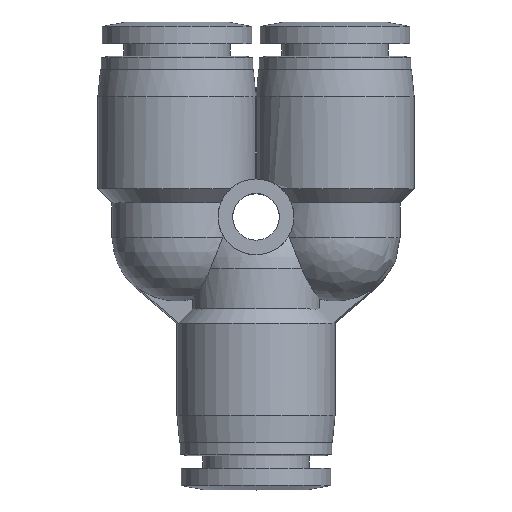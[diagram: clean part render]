
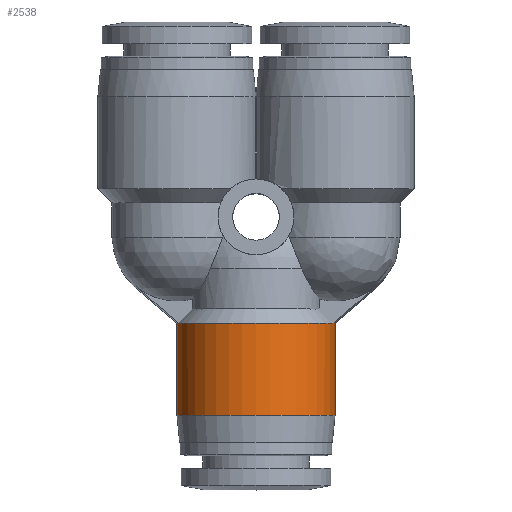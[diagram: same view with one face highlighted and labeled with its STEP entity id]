
A CAD part, top view. The second image highlights one B-rep face of the part: STEP entity #2538.
In plain terms, the highlighted cylindrical face has radius 7.3 mm (diameter 14.6 mm), a partial arc.
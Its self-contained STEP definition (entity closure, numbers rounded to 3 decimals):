
#26 = DIRECTION ( 'NONE',  ( 0., 1., 0. ) ) ;
#58 = CARTESIAN_POINT ( 'NONE',  ( 7.192, 8.5, 1.25 ) ) ;
#96 = CARTESIAN_POINT ( 'NONE',  ( -7.3, 0., 0. ) ) ;
#156 = CARTESIAN_POINT ( 'NONE',  ( 7.3, 4.25, 0. ) ) ;
#285 = CARTESIAN_POINT ( 'NONE',  ( 7.3, 8.5, 0. ) ) ;
#289 = CARTESIAN_POINT ( 'NONE',  ( 7.3, 8.5, 0. ) ) ;
#496 = VERTEX_POINT ( 'NONE', #4074 ) ;
#567 = CARTESIAN_POINT ( 'NONE',  ( 7.264, 8.5, 0.837 ) ) ;
#667 = VERTEX_POINT ( 'NONE', #4083 ) ;
#681 = VECTOR ( 'NONE', #1069, 1000. ) ;
#885 = EDGE_CURVE ( 'NONE', #1977, #1181, #2907, .T. ) ;
#916 = CARTESIAN_POINT ( 'NONE',  ( -7.3, 8.5, 0. ) ) ;
#977 = VECTOR ( 'NONE', #3688, 1000. ) ;
#1016 = EDGE_CURVE ( 'NONE', #1977, #667, #2318, .T. ) ;
#1021 = B_SPLINE_CURVE_WITH_KNOTS ( 'NONE', 3,
 ( #2537, #567, #1895, #285 ),
 .UNSPECIFIED., .F., .F.,
 ( 4, 4 ),
 ( 0., 0.5 ),
 .UNSPECIFIED. ) ;
#1069 = DIRECTION ( 'NONE',  ( 0., 1., 0. ) ) ;
#1100 = AXIS2_PLACEMENT_3D ( 'NONE', #3891, #1249, #2244 ) ;
#1130 = ORIENTED_EDGE ( 'NONE', *, *, #1228, .F. ) ;
#1133 = ORIENTED_EDGE ( 'NONE', *, *, #1348, .F. ) ;
#1181 = VERTEX_POINT ( 'NONE', #3584 ) ;
#1228 = EDGE_CURVE ( 'NONE', #1653, #2511, #1021, .T. ) ;
#1249 = DIRECTION ( 'NONE',  ( 0., 1., 0. ) ) ;
#1348 = EDGE_CURVE ( 'NONE', #496, #1653, #3886, .T. ) ;
#1540 = DIRECTION ( 'NONE',  ( -1., 0., 0. ) ) ;
#1653 = VERTEX_POINT ( 'NONE', #58 ) ;
#1662 = EDGE_CURVE ( 'NONE', #1181, #2511, #2408, .T. ) ;
#1895 = CARTESIAN_POINT ( 'NONE',  ( 7.3, 8.5, 0.419 ) ) ;
#1977 = VERTEX_POINT ( 'NONE', #96 ) ;
#2103 = ORIENTED_EDGE ( 'NONE', *, *, #1662, .T. ) ;
#2170 = ORIENTED_EDGE ( 'NONE', *, *, #1016, .F. ) ;
#2179 = EDGE_CURVE ( 'NONE', #667, #496, #3878, .T. ) ;
#2240 = CARTESIAN_POINT ( 'NONE',  ( -7.3, 8.5, 0.419 ) ) ;
#2244 = DIRECTION ( 'NONE',  ( -1., 0., 0. ) ) ;
#2288 = AXIS2_PLACEMENT_3D ( 'NONE', #3488, #3834, #1540 ) ;
#2318 = LINE ( 'NONE', #2363, #977 ) ;
#2363 = CARTESIAN_POINT ( 'NONE',  ( -7.3, 4.25, 0. ) ) ;
#2408 = LINE ( 'NONE', #156, #681 ) ;
#2497 = ORIENTED_EDGE ( 'NONE', *, *, #2179, .F. ) ;
#2511 = VERTEX_POINT ( 'NONE', #289 ) ;
#2537 = CARTESIAN_POINT ( 'NONE',  ( 7.192, 8.5, 1.25 ) ) ;
#2538 = ADVANCED_FACE ( 'NONE', ( #2599 ), #3274, .T. ) ;
#2599 = FACE_OUTER_BOUND ( 'NONE', #4113, .T. ) ;
#2692 = DIRECTION ( 'NONE',  ( -1., 0., 0. ) ) ;
#2907 = CIRCLE ( 'NONE', #2288, 7.3 ) ;
#2978 = CARTESIAN_POINT ( 'NONE',  ( 0., 8.5, 0. ) ) ;
#3202 = CARTESIAN_POINT ( 'NONE',  ( -7.264, 8.5, 0.837 ) ) ;
#3209 = ORIENTED_EDGE ( 'NONE', *, *, #885, .T. ) ;
#3274 = CYLINDRICAL_SURFACE ( 'NONE', #1100, 7.3 ) ;
#3474 = AXIS2_PLACEMENT_3D ( 'NONE', #2978, #26, #2692 ) ;
#3488 = CARTESIAN_POINT ( 'NONE',  ( 0., 0., 0. ) ) ;
#3508 = CARTESIAN_POINT ( 'NONE',  ( -7.192, 8.5, 1.25 ) ) ;
#3584 = CARTESIAN_POINT ( 'NONE',  ( 7.3, 0., 0. ) ) ;
#3688 = DIRECTION ( 'NONE',  ( 0., 1., 0. ) ) ;
#3834 = DIRECTION ( 'NONE',  ( 0., 1., 0. ) ) ;
#3878 = B_SPLINE_CURVE_WITH_KNOTS ( 'NONE', 3,
 ( #916, #2240, #3202, #3508 ),
 .UNSPECIFIED., .F., .F.,
 ( 4, 4 ),
 ( 0., 1. ),
 .UNSPECIFIED. ) ;
#3886 = CIRCLE ( 'NONE', #3474, 7.3 ) ;
#3891 = CARTESIAN_POINT ( 'NONE',  ( 0., 4.25, 0. ) ) ;
#4074 = CARTESIAN_POINT ( 'NONE',  ( -7.192, 8.5, 1.25 ) ) ;
#4083 = CARTESIAN_POINT ( 'NONE',  ( -7.3, 8.5, 0. ) ) ;
#4113 = EDGE_LOOP ( 'NONE', ( #3209, #2103, #1130, #1133, #2497, #2170 ) ) ;
